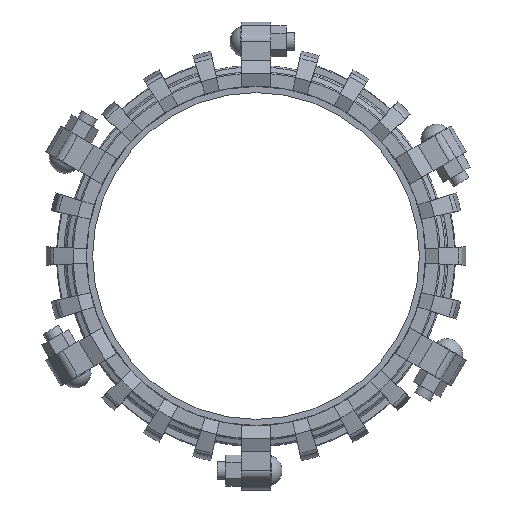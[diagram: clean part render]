
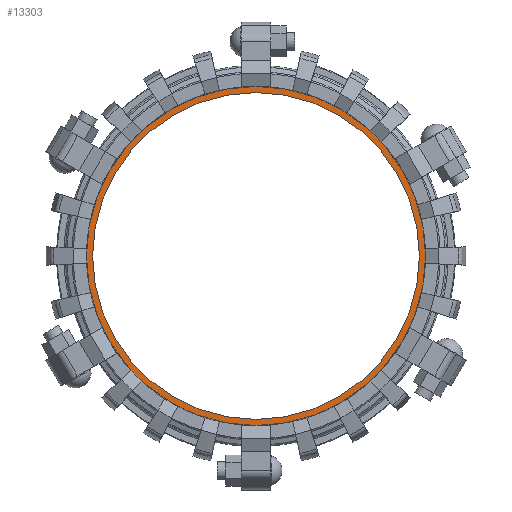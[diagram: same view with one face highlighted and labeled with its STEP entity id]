
A CAD part, top view. The second image highlights one B-rep face of the part: STEP entity #13303.
In plain terms, the highlighted planar face has unit normal (0, 0, 1).
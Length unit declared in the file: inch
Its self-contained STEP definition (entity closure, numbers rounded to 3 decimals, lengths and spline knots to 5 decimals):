
#447=FACE_BOUND('',#1445,.T.);
#481=PLANE('',#14051);
#726=FACE_OUTER_BOUND('',#1444,.T.);
#1444=EDGE_LOOP('',(#8406,#8407));
#1445=EDGE_LOOP('',(#8408));
#4015=CIRCLE('',#14047,13.75);
#4018=CIRCLE('',#14052,14.75);
#4019=CIRCLE('',#14053,14.75);
#5049=VERTEX_POINT('',#20254);
#5052=VERTEX_POINT('',#20263);
#5053=VERTEX_POINT('',#20264);
#6384=EDGE_CURVE('',#5049,#5049,#4015,.T.);
#6387=EDGE_CURVE('',#5052,#5053,#4018,.T.);
#6388=EDGE_CURVE('',#5053,#5052,#4019,.T.);
#8406=ORIENTED_EDGE('',*,*,#6387,.F.);
#8407=ORIENTED_EDGE('',*,*,#6388,.F.);
#8408=ORIENTED_EDGE('',*,*,#6384,.T.);
#13303=ADVANCED_FACE('',(#726,#447),#481,.T.);
#14047=AXIS2_PLACEMENT_3D('',#20256,#15816,#15817);
#14051=AXIS2_PLACEMENT_3D('',#20262,#15824,#15825);
#14052=AXIS2_PLACEMENT_3D('',#20265,#15826,#15827);
#14053=AXIS2_PLACEMENT_3D('',#20266,#15828,#15829);
#15816=DIRECTION('center_axis',(0.,0.,-1.));
#15817=DIRECTION('ref_axis',(0.,-1.,0.));
#15824=DIRECTION('center_axis',(0.,0.,1.));
#15825=DIRECTION('ref_axis',(1.,0.,0.));
#15826=DIRECTION('center_axis',(0.,0.,-1.));
#15827=DIRECTION('ref_axis',(0.,1.,0.));
#15828=DIRECTION('center_axis',(0.,0.,-1.));
#15829=DIRECTION('ref_axis',(0.,1.,0.));
#20254=CARTESIAN_POINT('',(0.,13.75,0.095));
#20256=CARTESIAN_POINT('Origin',(0.,0.,0.095));
#20262=CARTESIAN_POINT('Origin',(0.,0.,
0.095));
#20263=CARTESIAN_POINT('',(0.,14.75,0.095));
#20264=CARTESIAN_POINT('',(0.,-14.75,0.095));
#20265=CARTESIAN_POINT('Origin',(0.,0.,
0.095));
#20266=CARTESIAN_POINT('Origin',(0.,0.,
0.095));
